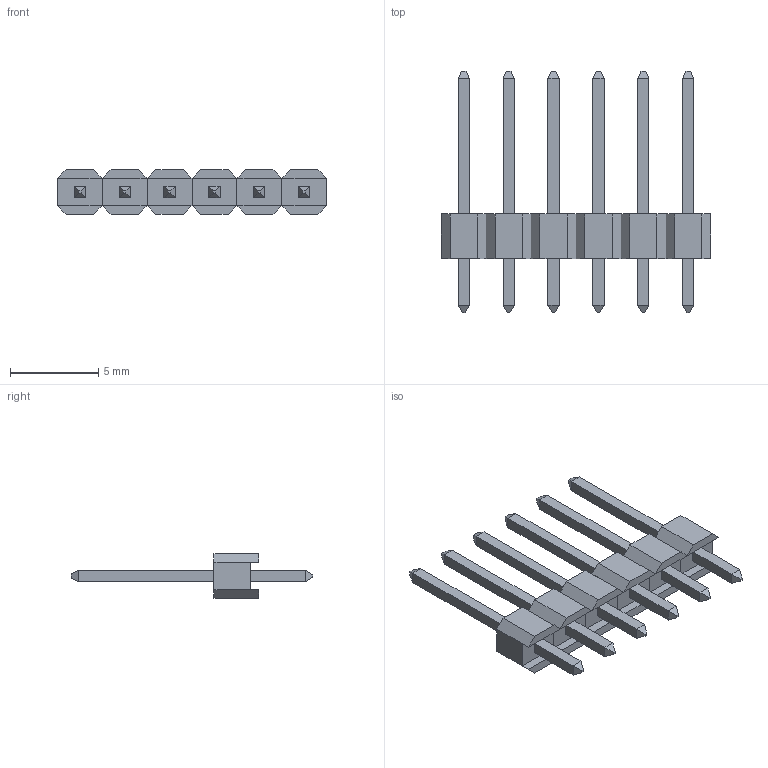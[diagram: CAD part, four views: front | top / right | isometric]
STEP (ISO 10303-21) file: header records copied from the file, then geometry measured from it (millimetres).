
FILE_DESCRIPTION (( 'STEP AP214' ), '1' );
FILE_NAME ('PRPC006SFAN-RC.STEP', '2018-01-22T21:32:14', ( '' ), ( '' ), 'SwSTEP 2.0', 'SolidWorks 2014', '' );
FILE_SCHEMA (( 'AUTOMOTIVE_DESIGN' ));
Length unit declared in the file: millimetre
Products named in the file (2): 1 row end bumps format; PRPC006SFAN-RC
Assembly tree (6 placements, depth 2):
  PRPC006SFAN-RC
    1 row end bumps format  x6
Bounding box: 15.24 x 13.67 x 2.54 mm (x, y, z)
Volume: 106.5 mm3; surface area: 395.2 mm2
Topology: 18 solids, 18 shells, 204 faces, 432 edges, 264 vertices
Faces by surface type: plane 204
Entity records: 1004 total; most frequent: CARTESIAN_POINT 159, DIRECTION 158, ORIENTED_EDGE 144, LINE 72, VECTOR 72, EDGE_CURVE 72, VERTEX_POINT 44, AXIS2_PLACEMENT_3D 43
